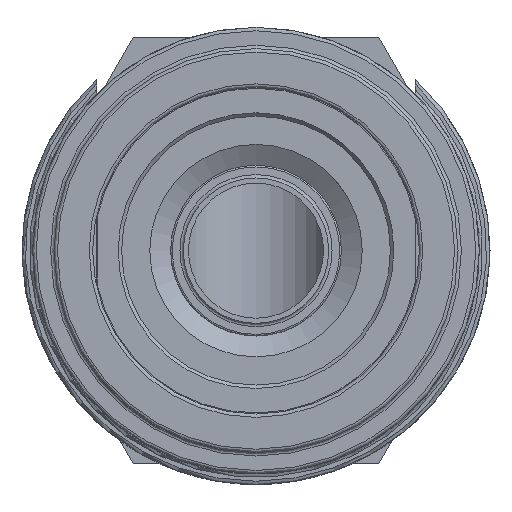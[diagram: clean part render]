
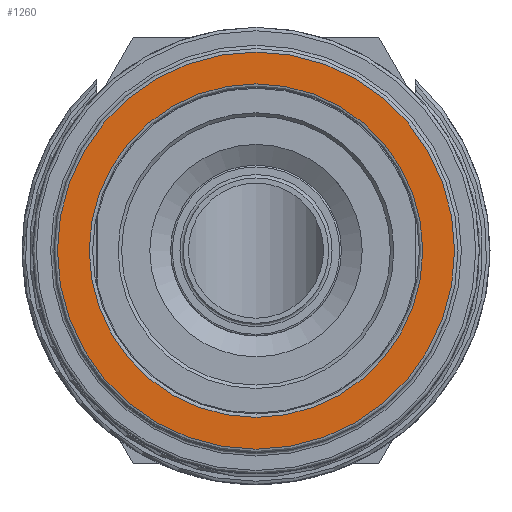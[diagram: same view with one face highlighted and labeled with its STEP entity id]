
A CAD part, front view. The second image highlights one B-rep face of the part: STEP entity #1260.
In plain terms, the highlighted planar face has unit normal (0, -1, 0).
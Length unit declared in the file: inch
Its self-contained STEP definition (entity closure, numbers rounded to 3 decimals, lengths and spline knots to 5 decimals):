
#47=FACE_BOUND('',#216,.T.);
#139=FACE_OUTER_BOUND('',#215,.T.);
#215=EDGE_LOOP('',(#926));
#216=EDGE_LOOP('',(#927));
#482=CIRCLE('',#1395,0.49);
#483=CIRCLE('',#1397,0.5835);
#571=VERTEX_POINT('',#2071);
#572=VERTEX_POINT('',#2075);
#705=EDGE_CURVE('',#571,#571,#482,.T.);
#706=EDGE_CURVE('',#572,#572,#483,.T.);
#926=ORIENTED_EDGE('',*,*,#706,.F.);
#927=ORIENTED_EDGE('',*,*,#705,.F.);
#1218=PLANE('',#1396);
#1260=ADVANCED_FACE('',(#139,#47),#1218,.T.);
#1395=AXIS2_PLACEMENT_3D('',#2073,#1613,#1614);
#1396=AXIS2_PLACEMENT_3D('',#2074,#1615,#1616);
#1397=AXIS2_PLACEMENT_3D('',#2076,#1617,#1618);
#1613=DIRECTION('center_axis',(0.,-1.,0.));
#1614=DIRECTION('ref_axis',(0.,0.,1.));
#1615=DIRECTION('center_axis',(0.,-1.,0.));
#1616=DIRECTION('ref_axis',(0.,0.,-1.));
#1617=DIRECTION('center_axis',(0.,1.,0.));
#1618=DIRECTION('ref_axis',(0.,0.,1.));
#2071=CARTESIAN_POINT('',(0.,0.,0.49));
#2073=CARTESIAN_POINT('Origin',(0.,0.,0.));
#2074=CARTESIAN_POINT('Origin',(0.,0.,-0.48));
#2075=CARTESIAN_POINT('',(0.,0.,0.5835));
#2076=CARTESIAN_POINT('Origin',(0.,0.,0.));
